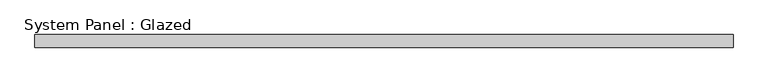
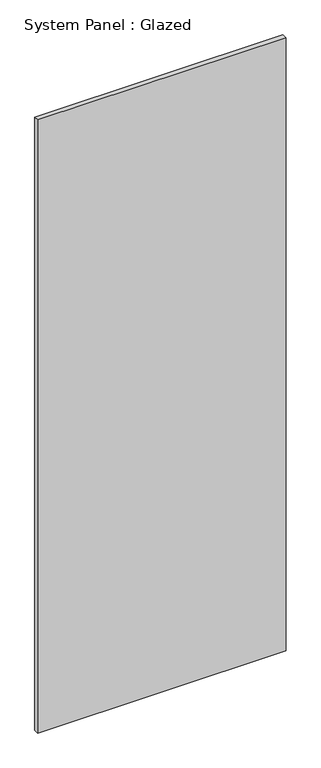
"""IFC4 building model written with IfcOpenShell, lengths in millimetres: plate geometry, System Panel : Glazed."""

from ifc_helpers import new_model, si_unit, origin, origin_with_axes, place, context, project, spatial, polyline, outline, extrude, source, transform, mapped, element, save


def system_panel_glazed_e4cb9f9a(model_context):
    return source(origin(), model_context, "Body", "SweptSolid", [
        extrude(outline(polyline([(688.975, 19.05), (-688.975, 19.05), (-688.975, 44.45), (688.975, 44.45), (688.975, 19.05)])), origin_with_axes(), (0.0, 0.0, 1.0), 3594.1),
    ])


if __name__ == "__main__":
    model = new_model("IFC4")
    model_context = context("Model", 3, world=origin())
    ifc_project = project(units=[si_unit("LENGTHUNIT", "METRE", prefix="MILLI")], contexts=[model_context])
    site = spatial("IfcSite", under=ifc_project)
    building = spatial("IfcBuilding", under=site)
    placement = place(None, origin())
    system_panel_glazed_shape = system_panel_glazed_e4cb9f9a(model_context)
    element("IfcPlate", 1, ObjectType="System Panel : Glazed", at=placement, inside=building, context=model_context, shape_type="MappedRepresentation", body=[
        mapped(system_panel_glazed_shape, transform((0.0, 0.0, 0.0), x_axis=(1.0, 0.0, 0.0), y_axis=(0.0, 1.0, 0.0), z_axis=(0.0, 0.0, 1.0))),
    ])
    save(model, "model.ifc")
